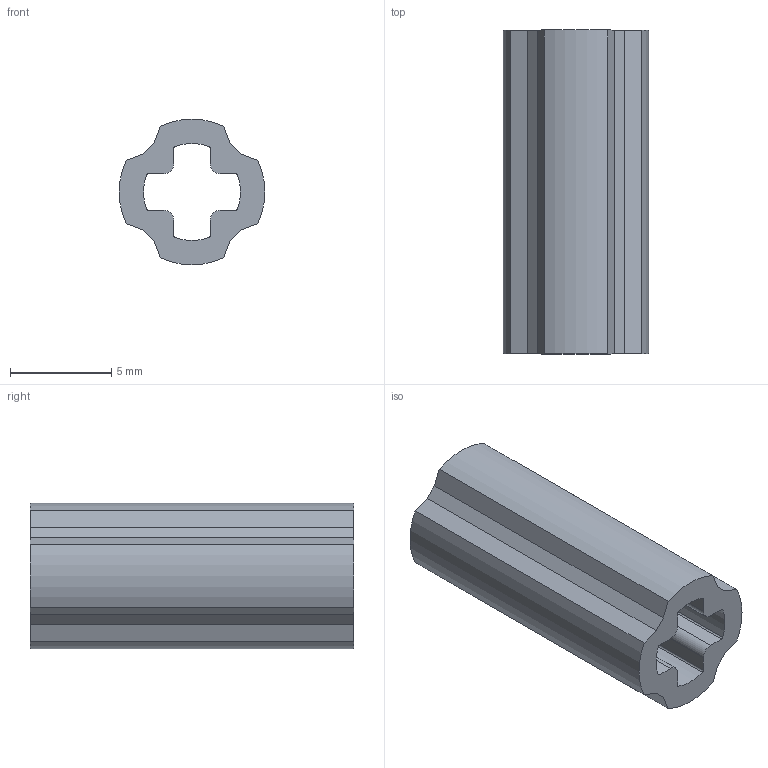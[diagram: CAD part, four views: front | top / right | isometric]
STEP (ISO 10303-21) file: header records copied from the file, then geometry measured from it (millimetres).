
FILE_DESCRIPTION(/* description */ ('Unknown'),/* implementation_level */ '2;1');
FILE_NAME(/* name */ 'Gray_4516546_JCA',/* time_stamp */ '2025-07-21T23:59:28+02:00',/* author */ ('Unknown'),/* organization */ ('Unknown'),/* preprocessor_version */ 'ST-DEVELOPER v19.4',/* originating_system */ 'Solid Edge',/* authorisation */ 'Unknown');
FILE_SCHEMA (('AUTOMOTIVE_DESIGN {1 0 10303 214 3 1 1}'));
Length unit declared in the file: millimetre
Products named in the file (1): Gray_4516546_JCA
Bounding box: 7.2 x 16 x 7.2 mm (x, y, z)
Volume: 373.8 mm3; surface area: 687.1 mm2
Topology: 1 solids, 1 shells, 42 faces, 120 edges, 80 vertices
Faces by surface type: plane 22, cylinder 20
Entity records: 1418 total; most frequent: DIRECTION 246, CARTESIAN_POINT 243, ORIENTED_EDGE 240, EDGE_CURVE 120, AXIS2_PLACEMENT_3D 83, LINE 80, VECTOR 80, VERTEX_POINT 80
